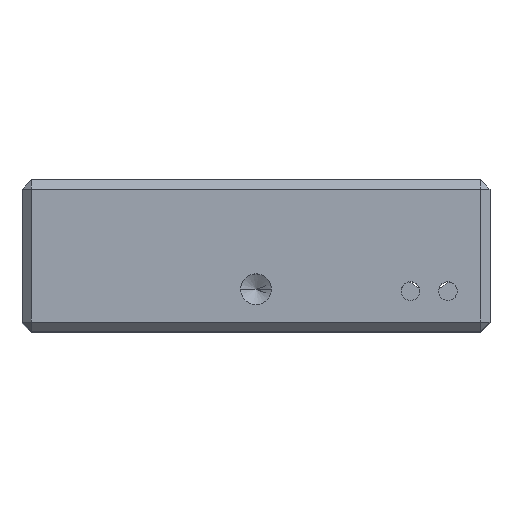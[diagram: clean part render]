
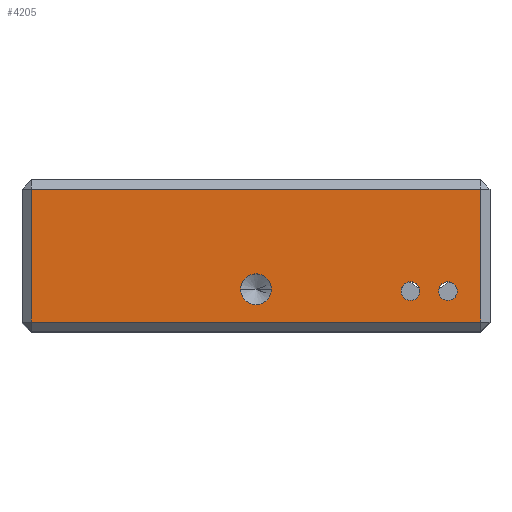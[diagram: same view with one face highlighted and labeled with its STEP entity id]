
A CAD part, top view. The second image highlights one B-rep face of the part: STEP entity #4205.
In plain terms, the highlighted planar face has unit normal (0, 0, 1).
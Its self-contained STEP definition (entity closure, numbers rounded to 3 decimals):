
#13 = VERTEX_POINT ( 'NONE', #479 ) ;
#67 = VECTOR ( 'NONE', #556, 1000. ) ;
#139 = DIRECTION ( 'NONE',  ( 1., 0., 0. ) ) ;
#277 = VERTEX_POINT ( 'NONE', #2859 ) ;
#354 = EDGE_CURVE ( 'NONE', #4613, #836, #2689, .T. ) ;
#391 = CARTESIAN_POINT ( 'NONE',  ( 19.5, 4.3, 27. ) ) ;
#426 = AXIS2_PLACEMENT_3D ( 'NONE', #1469, #2529, #4360 ) ;
#433 = FACE_BOUND ( 'NONE', #2517, .T. ) ;
#479 = CARTESIAN_POINT ( 'NONE',  ( -24., 15.2, 27. ) ) ;
#507 = ORIENTED_EDGE ( 'NONE', *, *, #971, .F. ) ;
#556 = DIRECTION ( 'NONE',  ( 0., 1., 0. ) ) ;
#643 = DIRECTION ( 'NONE',  ( 0., 0., 1. ) ) ;
#692 = ORIENTED_EDGE ( 'NONE', *, *, #3168, .F. ) ;
#774 = CIRCLE ( 'NONE', #3424, 1.65 ) ;
#828 = DIRECTION ( 'NONE',  ( 1., 0., 0. ) ) ;
#836 = VERTEX_POINT ( 'NONE', #3323 ) ;
#878 = EDGE_CURVE ( 'NONE', #4279, #1138, #2876, .T. ) ;
#905 = LINE ( 'NONE', #3461, #67 ) ;
#971 = EDGE_CURVE ( 'NONE', #277, #3791, #1445, .T. ) ;
#984 = LINE ( 'NONE', #1418, #3440 ) ;
#1031 = CARTESIAN_POINT ( 'NONE',  ( -25., 15.2, 27. ) ) ;
#1052 = DIRECTION ( 'NONE',  ( -1., 0., 0. ) ) ;
#1059 = DIRECTION ( 'NONE',  ( 1., 0., 0. ) ) ;
#1085 = FACE_BOUND ( 'NONE', #1447, .T. ) ;
#1106 = AXIS2_PLACEMENT_3D ( 'NONE', #3979, #3286, #4268 ) ;
#1130 = CARTESIAN_POINT ( 'NONE',  ( 0., 4.5, 27. ) ) ;
#1138 = VERTEX_POINT ( 'NONE', #3475 ) ;
#1208 = VECTOR ( 'NONE', #1052, 1000. ) ;
#1239 = DIRECTION ( 'NONE',  ( 0., -1., 0. ) ) ;
#1244 = VERTEX_POINT ( 'NONE', #1536 ) ;
#1306 = EDGE_LOOP ( 'NONE', ( #2756, #692 ) ) ;
#1359 = DIRECTION ( 'NONE',  ( 0., 0., 1. ) ) ;
#1418 = CARTESIAN_POINT ( 'NONE',  ( -25., 1., 27. ) ) ;
#1445 = CIRCLE ( 'NONE', #4473, 1. ) ;
#1447 = EDGE_LOOP ( 'NONE', ( #1655, #2664 ) ) ;
#1469 = CARTESIAN_POINT ( 'NONE',  ( -25., 16.2, 27. ) ) ;
#1536 = CARTESIAN_POINT ( 'NONE',  ( 24., 15.2, 27. ) ) ;
#1601 = AXIS2_PLACEMENT_3D ( 'NONE', #1130, #3302, #2613 ) ;
#1655 = ORIENTED_EDGE ( 'NONE', *, *, #2727, .F. ) ;
#1716 = CARTESIAN_POINT ( 'NONE',  ( 20.5, 4.3, 27. ) ) ;
#1835 = EDGE_LOOP ( 'NONE', ( #3936, #4196, #3358, #3487 ) ) ;
#1957 = CARTESIAN_POINT ( 'NONE',  ( 16.5, 4.3, 27. ) ) ;
#2178 = VECTOR ( 'NONE', #1239, 1000. ) ;
#2192 = CARTESIAN_POINT ( 'NONE',  ( 24., 1., 27. ) ) ;
#2200 = FACE_BOUND ( 'NONE', #1306, .T. ) ;
#2228 = VERTEX_POINT ( 'NONE', #2192 ) ;
#2294 = DIRECTION ( 'NONE',  ( 0., 0., 1. ) ) ;
#2433 = CARTESIAN_POINT ( 'NONE',  ( 20.5, 4.3, 27. ) ) ;
#2461 = CARTESIAN_POINT ( 'NONE',  ( -24., 1., 27. ) ) ;
#2491 = LINE ( 'NONE', #1031, #1208 ) ;
#2517 = EDGE_LOOP ( 'NONE', ( #507, #4560 ) ) ;
#2529 = DIRECTION ( 'NONE',  ( 0., 0., -1. ) ) ;
#2574 = PLANE ( 'NONE',  #426 ) ;
#2613 = DIRECTION ( 'NONE',  ( 1., 0., 0. ) ) ;
#2664 = ORIENTED_EDGE ( 'NONE', *, *, #878, .F. ) ;
#2689 = CIRCLE ( 'NONE', #1106, 1. ) ;
#2719 = CARTESIAN_POINT ( 'NONE',  ( -24., 16.2, 27. ) ) ;
#2727 = EDGE_CURVE ( 'NONE', #1138, #4279, #774, .T. ) ;
#2756 = ORIENTED_EDGE ( 'NONE', *, *, #354, .F. ) ;
#2859 = CARTESIAN_POINT ( 'NONE',  ( 21.5, 4.3, 27. ) ) ;
#2876 = CIRCLE ( 'NONE', #1601, 1.65 ) ;
#2983 = CARTESIAN_POINT ( 'NONE',  ( 0., 4.5, 27. ) ) ;
#3012 = CARTESIAN_POINT ( 'NONE',  ( 17.5, 4.3, 27. ) ) ;
#3034 = VERTEX_POINT ( 'NONE', #2461 ) ;
#3168 = EDGE_CURVE ( 'NONE', #836, #4613, #3319, .T. ) ;
#3171 = AXIS2_PLACEMENT_3D ( 'NONE', #1957, #3706, #139 ) ;
#3179 = DIRECTION ( 'NONE',  ( 1., 0., 0. ) ) ;
#3223 = EDGE_CURVE ( 'NONE', #1244, #13, #2491, .T. ) ;
#3286 = DIRECTION ( 'NONE',  ( 0., 0., 1. ) ) ;
#3302 = DIRECTION ( 'NONE',  ( 0., 0., 1. ) ) ;
#3319 = CIRCLE ( 'NONE', #3171, 1. ) ;
#3323 = CARTESIAN_POINT ( 'NONE',  ( 15.5, 4.3, 27. ) ) ;
#3358 = ORIENTED_EDGE ( 'NONE', *, *, #3574, .T. ) ;
#3382 = CARTESIAN_POINT ( 'NONE',  ( -1.65, 4.5, 27. ) ) ;
#3424 = AXIS2_PLACEMENT_3D ( 'NONE', #2983, #2294, #828 ) ;
#3440 = VECTOR ( 'NONE', #1059, 1000. ) ;
#3461 = CARTESIAN_POINT ( 'NONE',  ( 24., 16.2, 27. ) ) ;
#3475 = CARTESIAN_POINT ( 'NONE',  ( 1.65, 4.5, 27. ) ) ;
#3487 = ORIENTED_EDGE ( 'NONE', *, *, #3223, .T. ) ;
#3547 = EDGE_CURVE ( 'NONE', #13, #3034, #3868, .T. ) ;
#3574 = EDGE_CURVE ( 'NONE', #2228, #1244, #905, .T. ) ;
#3706 = DIRECTION ( 'NONE',  ( 0., 0., 1. ) ) ;
#3791 = VERTEX_POINT ( 'NONE', #391 ) ;
#3868 = LINE ( 'NONE', #2719, #2178 ) ;
#3936 = ORIENTED_EDGE ( 'NONE', *, *, #3547, .T. ) ;
#3952 = DIRECTION ( 'NONE',  ( 1., 0., 0. ) ) ;
#3979 = CARTESIAN_POINT ( 'NONE',  ( 16.5, 4.3, 27. ) ) ;
#4046 = EDGE_CURVE ( 'NONE', #3791, #277, #4226, .T. ) ;
#4196 = ORIENTED_EDGE ( 'NONE', *, *, #4503, .T. ) ;
#4205 = ADVANCED_FACE ( 'NONE', ( #4333, #2200, #433, #1085 ), #2574, .F. ) ;
#4226 = CIRCLE ( 'NONE', #4605, 1. ) ;
#4268 = DIRECTION ( 'NONE',  ( 1., 0., 0. ) ) ;
#4279 = VERTEX_POINT ( 'NONE', #3382 ) ;
#4333 = FACE_OUTER_BOUND ( 'NONE', #1835, .T. ) ;
#4360 = DIRECTION ( 'NONE',  ( -1., 0., 0. ) ) ;
#4473 = AXIS2_PLACEMENT_3D ( 'NONE', #1716, #1359, #3179 ) ;
#4503 = EDGE_CURVE ( 'NONE', #3034, #2228, #984, .T. ) ;
#4560 = ORIENTED_EDGE ( 'NONE', *, *, #4046, .F. ) ;
#4605 = AXIS2_PLACEMENT_3D ( 'NONE', #2433, #643, #3952 ) ;
#4613 = VERTEX_POINT ( 'NONE', #3012 ) ;
